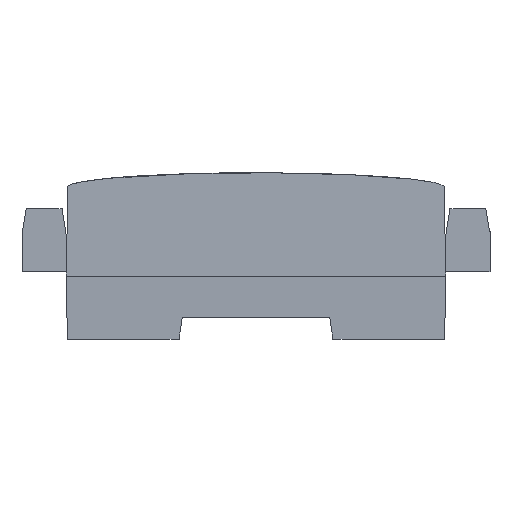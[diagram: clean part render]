
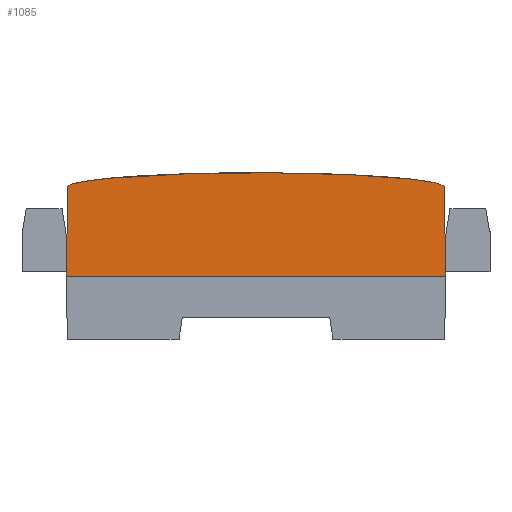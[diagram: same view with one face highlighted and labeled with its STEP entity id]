
A CAD part, left-side view. The second image highlights one B-rep face of the part: STEP entity #1085.
In plain terms, the highlighted planar face has unit normal (-1, 0, 0.018).
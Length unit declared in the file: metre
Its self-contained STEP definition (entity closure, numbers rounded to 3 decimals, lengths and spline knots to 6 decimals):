
#21=B_SPLINE_CURVE_WITH_KNOTS('',3,(#1724,#1725,#1726,#1727,#1728,#1729,
#1730,#1731,#1732,#1733,#1734,#1735,#1736,#1737,#1738,#1739,#1740,#1741,
#1742,#1743,#1744,#1745,#1746,#1747,#1748,#1749,#1750,#1751,#1752,#1753,
#1754),.UNSPECIFIED.,.F.,.F.,(4,1,1,1,1,1,1,1,1,1,1,1,1,1,1,1,1,1,1,1,1,
1,1,1,1,1,1,1,4),(0.00029,0.001001,0.001712,
0.003134,0.004556,0.005977,0.008821,
0.011665,0.014508,0.017352,0.023039,
0.028726,0.034414,0.040101,0.045788,
0.051476,0.057163,0.06285,0.068537,
0.074225,0.077068,0.079912,0.082756,
0.085599,0.087021,0.088443,0.089865,
0.090576,0.091286),.UNSPECIFIED.);
#238=ORIENTED_EDGE('',*,*,#439,.F.);
#239=ORIENTED_EDGE('',*,*,#442,.T.);
#240=ORIENTED_EDGE('',*,*,#460,.T.);
#241=ORIENTED_EDGE('',*,*,#418,.T.);
#418=EDGE_CURVE('',#544,#548,#656,.T.);
#439=EDGE_CURVE('',#558,#548,#677,.F.);
#442=EDGE_CURVE('',#558,#560,#21,.T.);
#460=EDGE_CURVE('',#560,#544,#691,.T.);
#544=VERTEX_POINT('',#1616);
#548=VERTEX_POINT('',#1628);
#558=VERTEX_POINT('',#1666);
#560=VERTEX_POINT('',#1723);
#656=LINE('',#1629,#788);
#677=LINE('',#1667,#809);
#691=LINE('',#1837,#823);
#788=VECTOR('',#1325,1.);
#809=VECTOR('',#1360,1.);
#823=VECTOR('',#1378,1.);
#889=EDGE_LOOP('',(#238,#239,#240,#241));
#963=FACE_BOUND('',#889,.T.);
#1031=PLANE('',#1176);
#1085=ADVANCED_FACE('',(#963),#1031,.T.);
#1176=AXIS2_PLACEMENT_3D('',#1839,#1380,#1381);
#1325=DIRECTION('',(0.,-1.,0.));
#1360=DIRECTION('',(0.017,0.017,1.));
#1378=DIRECTION('',(-0.017,0.017,-1.));
#1380=DIRECTION('',(-1.,0.,0.017));
#1381=DIRECTION('',(0.017,0.,1.));
#1616=CARTESIAN_POINT('',(-0.05375,0.045,0.));
#1628=CARTESIAN_POINT('',(-0.05375,-0.045,0.));
#1629=CARTESIAN_POINT('',(-0.05375,0.,0.));
#1666=CARTESIAN_POINT('',(-0.053379,-0.044629,0.021257));
#1667=CARTESIAN_POINT('',(-0.053736,-0.044986,0.000785));
#1723=CARTESIAN_POINT('',(-0.053379,0.044629,0.021257));
#1724=CARTESIAN_POINT('',(-0.053379,-0.044629,0.021257));
#1725=CARTESIAN_POINT('',(-0.053376,-0.044466,0.02143));
#1726=CARTESIAN_POINT('',(-0.053372,-0.044033,0.021638));
#1727=CARTESIAN_POINT('',(-0.053367,-0.043149,0.021949));
#1728=CARTESIAN_POINT('',(-0.053362,-0.042009,0.022217));
#1729=CARTESIAN_POINT('',(-0.053358,-0.040632,0.022474));
#1730=CARTESIAN_POINT('',(-0.053353,-0.038781,0.022758));
#1731=CARTESIAN_POINT('',(-0.053348,-0.036458,0.023041));
#1732=CARTESIAN_POINT('',(-0.053343,-0.033663,0.023314));
#1733=CARTESIAN_POINT('',(-0.053339,-0.030864,0.02354));
#1734=CARTESIAN_POINT('',(-0.053335,-0.027129,0.023795));
#1735=CARTESIAN_POINT('',(-0.05333,-0.022456,0.024041));
#1736=CARTESIAN_POINT('',(-0.053327,-0.016844,0.024254));
#1737=CARTESIAN_POINT('',(-0.053324,-0.011229,0.024398));
#1738=CARTESIAN_POINT('',(-0.053323,-0.005614,0.024482));
#1739=CARTESIAN_POINT('',(-0.053322,0.000002,0.024509));
#1740=CARTESIAN_POINT('',(-0.053323,0.005618,0.024482));
#1741=CARTESIAN_POINT('',(-0.053324,0.011233,0.024398));
#1742=CARTESIAN_POINT('',(-0.053327,0.016848,0.024254));
#1743=CARTESIAN_POINT('',(-0.05333,0.02246,0.024041));
#1744=CARTESIAN_POINT('',(-0.053335,0.027133,0.023794));
#1745=CARTESIAN_POINT('',(-0.053339,0.030868,0.02354));
#1746=CARTESIAN_POINT('',(-0.053343,0.033667,0.023314));
#1747=CARTESIAN_POINT('',(-0.053348,0.036462,0.02304));
#1748=CARTESIAN_POINT('',(-0.053353,0.038785,0.022757));
#1749=CARTESIAN_POINT('',(-0.053358,0.040636,0.022474));
#1750=CARTESIAN_POINT('',(-0.053362,0.042016,0.022216));
#1751=CARTESIAN_POINT('',(-0.053367,0.043158,0.021946));
#1752=CARTESIAN_POINT('',(-0.053372,0.044038,0.021636));
#1753=CARTESIAN_POINT('',(-0.053376,0.044467,0.021429));
#1754=CARTESIAN_POINT('',(-0.053379,0.044629,0.021257));
#1837=CARTESIAN_POINT('',(-0.053736,0.044986,0.000785));
#1839=CARTESIAN_POINT('',(-0.05375,0.,0.));
